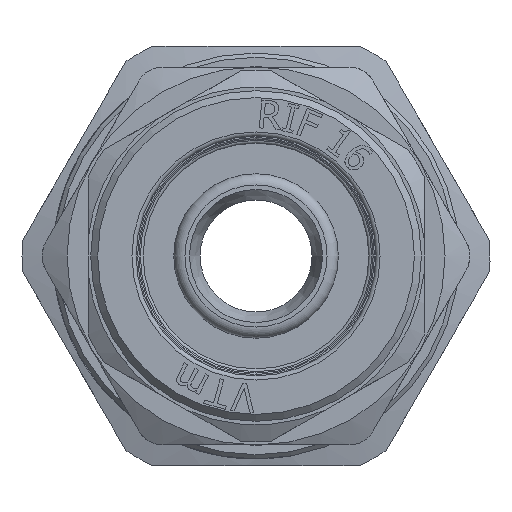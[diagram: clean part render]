
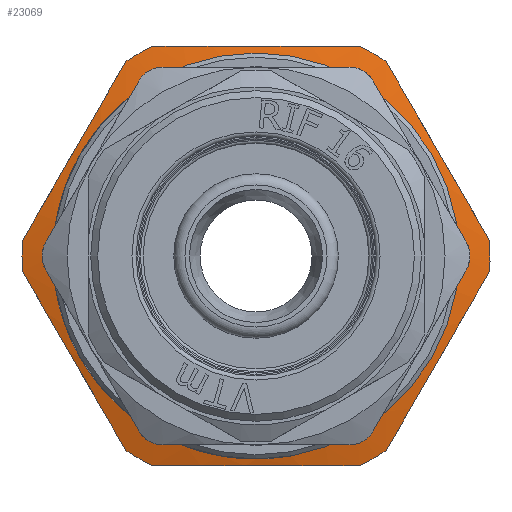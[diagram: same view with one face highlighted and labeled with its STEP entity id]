
A CAD part, left-side view. The second image highlights one B-rep face of the part: STEP entity #23069.
In plain terms, the highlighted conical face has half-angle 75 degrees and reference radius 15.609 mm.
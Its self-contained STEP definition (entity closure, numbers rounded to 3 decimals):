
#90=CONICAL_SURFACE('',#23932,15.609,1.309);
#157=(
BOUNDED_CURVE()
B_SPLINE_CURVE(2,(#51134,#51135,#51136),.UNSPECIFIED.,.F.,.F.)
B_SPLINE_CURVE_WITH_KNOTS((3,3),(0.,1.479),.UNSPECIFIED.)
CURVE()
GEOMETRIC_REPRESENTATION_ITEM()
RATIONAL_B_SPLINE_CURVE((1.,1.114,1.))
REPRESENTATION_ITEM('')
);
#159=(
BOUNDED_CURVE()
B_SPLINE_CURVE(2,(#51147,#51148,#51149),.UNSPECIFIED.,.F.,.F.)
B_SPLINE_CURVE_WITH_KNOTS((3,3),(0.,1.479),.UNSPECIFIED.)
CURVE()
GEOMETRIC_REPRESENTATION_ITEM()
RATIONAL_B_SPLINE_CURVE((1.,1.114,1.))
REPRESENTATION_ITEM('')
);
#161=(
BOUNDED_CURVE()
B_SPLINE_CURVE(2,(#51160,#51161,#51162),.UNSPECIFIED.,.F.,.F.)
B_SPLINE_CURVE_WITH_KNOTS((3,3),(0.,1.479),.UNSPECIFIED.)
CURVE()
GEOMETRIC_REPRESENTATION_ITEM()
RATIONAL_B_SPLINE_CURVE((1.,1.114,1.))
REPRESENTATION_ITEM('')
);
#163=(
BOUNDED_CURVE()
B_SPLINE_CURVE(2,(#51173,#51174,#51175),.UNSPECIFIED.,.F.,.F.)
B_SPLINE_CURVE_WITH_KNOTS((3,3),(0.,1.479),.UNSPECIFIED.)
CURVE()
GEOMETRIC_REPRESENTATION_ITEM()
RATIONAL_B_SPLINE_CURVE((1.,1.114,1.))
REPRESENTATION_ITEM('')
);
#165=(
BOUNDED_CURVE()
B_SPLINE_CURVE(2,(#51186,#51187,#51188),.UNSPECIFIED.,.F.,.F.)
B_SPLINE_CURVE_WITH_KNOTS((3,3),(0.,1.479),.UNSPECIFIED.)
CURVE()
GEOMETRIC_REPRESENTATION_ITEM()
RATIONAL_B_SPLINE_CURVE((1.,1.114,1.))
REPRESENTATION_ITEM('')
);
#167=(
BOUNDED_CURVE()
B_SPLINE_CURVE(2,(#51199,#51200,#51201),.UNSPECIFIED.,.F.,.F.)
B_SPLINE_CURVE_WITH_KNOTS((3,3),(0.,1.479),.UNSPECIFIED.)
CURVE()
GEOMETRIC_REPRESENTATION_ITEM()
RATIONAL_B_SPLINE_CURVE((1.,1.114,1.))
REPRESENTATION_ITEM('')
);
#2431=FACE_OUTER_BOUND('',#3784,.T.);
#3784=EDGE_LOOP('',(#20919,#20920,#20921,#20922,#20923,#20924,#20925,#20926,
#20927,#20928,#20929,#20930,#20931,#20932,#20933,#20934,#20935));
#4171=CIRCLE('',#23799,14.5);
#4172=CIRCLE('',#23800,14.5);
#4186=CIRCLE('',#23902,16.717);
#4187=CIRCLE('',#23904,16.717);
#4188=CIRCLE('',#23906,16.717);
#4189=CIRCLE('',#23908,16.717);
#4190=CIRCLE('',#23909,16.717);
#4191=CIRCLE('',#23911,16.717);
#4203=CIRCLE('',#23933,16.717);
#7347=LINE('',#51271,#8796);
#8796=VECTOR('',#27217,15.609);
#10679=VERTEX_POINT('',#49915);
#10680=VERTEX_POINT('',#49917);
#10899=VERTEX_POINT('',#51132);
#10900=VERTEX_POINT('',#51133);
#10903=VERTEX_POINT('',#51145);
#10904=VERTEX_POINT('',#51146);
#10907=VERTEX_POINT('',#51158);
#10908=VERTEX_POINT('',#51159);
#10911=VERTEX_POINT('',#51171);
#10912=VERTEX_POINT('',#51172);
#10915=VERTEX_POINT('',#51184);
#10916=VERTEX_POINT('',#51185);
#10919=VERTEX_POINT('',#51197);
#10920=VERTEX_POINT('',#51198);
#10926=VERTEX_POINT('',#51230);
#13966=EDGE_CURVE('',#10679,#10680,#4171,.T.);
#13967=EDGE_CURVE('',#10680,#10679,#4172,.T.);
#14293=EDGE_CURVE('',#10899,#10900,#157,.T.);
#14297=EDGE_CURVE('',#10903,#10904,#159,.T.);
#14301=EDGE_CURVE('',#10907,#10908,#161,.T.);
#14305=EDGE_CURVE('',#10911,#10912,#163,.T.);
#14309=EDGE_CURVE('',#10915,#10916,#165,.T.);
#14313=EDGE_CURVE('',#10919,#10920,#167,.T.);
#14327=EDGE_CURVE('',#10920,#10899,#4186,.T.);
#14328=EDGE_CURVE('',#10916,#10919,#4187,.T.);
#14329=EDGE_CURVE('',#10912,#10915,#4188,.T.);
#14330=EDGE_CURVE('',#10926,#10911,#4189,.T.);
#14331=EDGE_CURVE('',#10908,#10926,#4190,.T.);
#14332=EDGE_CURVE('',#10904,#10907,#4191,.T.);
#14349=EDGE_CURVE('',#10679,#10926,#7347,.T.);
#14350=EDGE_CURVE('',#10900,#10903,#4203,.T.);
#20919=ORIENTED_EDGE('',*,*,#13967,.F.);
#20920=ORIENTED_EDGE('',*,*,#13966,.F.);
#20921=ORIENTED_EDGE('',*,*,#14349,.T.);
#20922=ORIENTED_EDGE('',*,*,#14330,.T.);
#20923=ORIENTED_EDGE('',*,*,#14305,.T.);
#20924=ORIENTED_EDGE('',*,*,#14329,.T.);
#20925=ORIENTED_EDGE('',*,*,#14309,.T.);
#20926=ORIENTED_EDGE('',*,*,#14328,.T.);
#20927=ORIENTED_EDGE('',*,*,#14313,.T.);
#20928=ORIENTED_EDGE('',*,*,#14327,.T.);
#20929=ORIENTED_EDGE('',*,*,#14293,.T.);
#20930=ORIENTED_EDGE('',*,*,#14350,.T.);
#20931=ORIENTED_EDGE('',*,*,#14297,.T.);
#20932=ORIENTED_EDGE('',*,*,#14332,.T.);
#20933=ORIENTED_EDGE('',*,*,#14301,.T.);
#20934=ORIENTED_EDGE('',*,*,#14331,.T.);
#20935=ORIENTED_EDGE('',*,*,#14349,.F.);
#23069=ADVANCED_FACE('',(#2431),#90,.T.);
#23799=AXIS2_PLACEMENT_3D('',#49918,#26694,#26695);
#23800=AXIS2_PLACEMENT_3D('',#49919,#26696,#26697);
#23902=AXIS2_PLACEMENT_3D('',#51224,#27150,#27151);
#23904=AXIS2_PLACEMENT_3D('',#51226,#27154,#27155);
#23906=AXIS2_PLACEMENT_3D('',#51228,#27158,#27159);
#23908=AXIS2_PLACEMENT_3D('',#51231,#27162,#27163);
#23909=AXIS2_PLACEMENT_3D('',#51232,#27164,#27165);
#23911=AXIS2_PLACEMENT_3D('',#51234,#27168,#27169);
#23932=AXIS2_PLACEMENT_3D('',#51270,#27215,#27216);
#23933=AXIS2_PLACEMENT_3D('',#51272,#27218,#27219);
#26694=DIRECTION('center_axis',(-1.,0.,0.));
#26695=DIRECTION('ref_axis',(0.,0.,1.));
#26696=DIRECTION('center_axis',(-1.,0.,0.));
#26697=DIRECTION('ref_axis',(0.,0.,1.));
#27150=DIRECTION('center_axis',(-1.,0.,0.));
#27151=DIRECTION('ref_axis',(0.,0.,1.));
#27154=DIRECTION('center_axis',(-1.,0.,0.));
#27155=DIRECTION('ref_axis',(0.,0.,1.));
#27158=DIRECTION('center_axis',(-1.,0.,0.));
#27159=DIRECTION('ref_axis',(0.,0.,1.));
#27162=DIRECTION('center_axis',(-1.,0.,0.));
#27163=DIRECTION('ref_axis',(0.,0.,1.));
#27164=DIRECTION('center_axis',(-1.,0.,0.));
#27165=DIRECTION('ref_axis',(0.,0.,1.));
#27168=DIRECTION('center_axis',(-1.,0.,0.));
#27169=DIRECTION('ref_axis',(0.,0.,1.));
#27215=DIRECTION('center_axis',(1.,0.,0.));
#27216=DIRECTION('ref_axis',(0.,-1.,0.));
#27217=DIRECTION('',(0.259,0.966,0.));
#27218=DIRECTION('center_axis',(-1.,0.,0.));
#27219=DIRECTION('ref_axis',(0.,0.,1.));
#49915=CARTESIAN_POINT('',(10.981,14.5,0.));
#49917=CARTESIAN_POINT('',(10.981,-14.5,0.));
#49918=CARTESIAN_POINT('Origin',(10.981,0.,
0.));
#49919=CARTESIAN_POINT('Origin',(10.981,0.,
0.));
#51132=CARTESIAN_POINT('',(11.575,-16.681,1.108));
#51133=CARTESIAN_POINT('',(11.575,-9.3,13.892));
#51134=CARTESIAN_POINT('Ctrl Pts',(11.575,-16.681,1.108));
#51135=CARTESIAN_POINT('Ctrl Pts',(10.702,-12.99,7.5));
#51136=CARTESIAN_POINT('Ctrl Pts',(11.575,-9.3,13.892));
#51145=CARTESIAN_POINT('',(11.575,-7.38,15.));
#51146=CARTESIAN_POINT('',(11.575,7.38,15.));
#51147=CARTESIAN_POINT('Ctrl Pts',(11.575,-7.38,15.));
#51148=CARTESIAN_POINT('Ctrl Pts',(10.702,0.,
15.));
#51149=CARTESIAN_POINT('Ctrl Pts',(11.575,7.38,15.));
#51158=CARTESIAN_POINT('',(11.575,9.3,13.892));
#51159=CARTESIAN_POINT('',(11.575,16.681,1.108));
#51160=CARTESIAN_POINT('Ctrl Pts',(11.575,9.3,13.892));
#51161=CARTESIAN_POINT('Ctrl Pts',(10.702,12.99,7.5));
#51162=CARTESIAN_POINT('Ctrl Pts',(11.575,16.681,1.108));
#51171=CARTESIAN_POINT('',(11.575,16.681,-1.108));
#51172=CARTESIAN_POINT('',(11.575,9.3,-13.892));
#51173=CARTESIAN_POINT('Ctrl Pts',(11.575,16.681,-1.108));
#51174=CARTESIAN_POINT('Ctrl Pts',(10.702,12.99,-7.5));
#51175=CARTESIAN_POINT('Ctrl Pts',(11.575,9.3,-13.892));
#51184=CARTESIAN_POINT('',(11.575,7.38,-15.));
#51185=CARTESIAN_POINT('',(11.575,-7.38,-15.));
#51186=CARTESIAN_POINT('Ctrl Pts',(11.575,7.38,-15.));
#51187=CARTESIAN_POINT('Ctrl Pts',(10.702,0.,
-15.));
#51188=CARTESIAN_POINT('Ctrl Pts',(11.575,-7.38,-15.));
#51197=CARTESIAN_POINT('',(11.575,-9.3,-13.892));
#51198=CARTESIAN_POINT('',(11.575,-16.681,-1.108));
#51199=CARTESIAN_POINT('Ctrl Pts',(11.575,-9.3,-13.892));
#51200=CARTESIAN_POINT('Ctrl Pts',(10.702,-12.99,-7.5));
#51201=CARTESIAN_POINT('Ctrl Pts',(11.575,-16.681,-1.108));
#51224=CARTESIAN_POINT('Origin',(11.575,0.,0.));
#51226=CARTESIAN_POINT('Origin',(11.575,0.,0.));
#51228=CARTESIAN_POINT('Origin',(11.575,0.,0.));
#51230=CARTESIAN_POINT('',(11.575,16.717,0.));
#51231=CARTESIAN_POINT('Origin',(11.575,0.,0.));
#51232=CARTESIAN_POINT('Origin',(11.575,0.,0.));
#51234=CARTESIAN_POINT('Origin',(11.575,0.,0.));
#51270=CARTESIAN_POINT('Origin',(11.278,0.,
0.));
#51271=CARTESIAN_POINT('',(11.278,15.609,0.));
#51272=CARTESIAN_POINT('Origin',(11.575,0.,0.));
